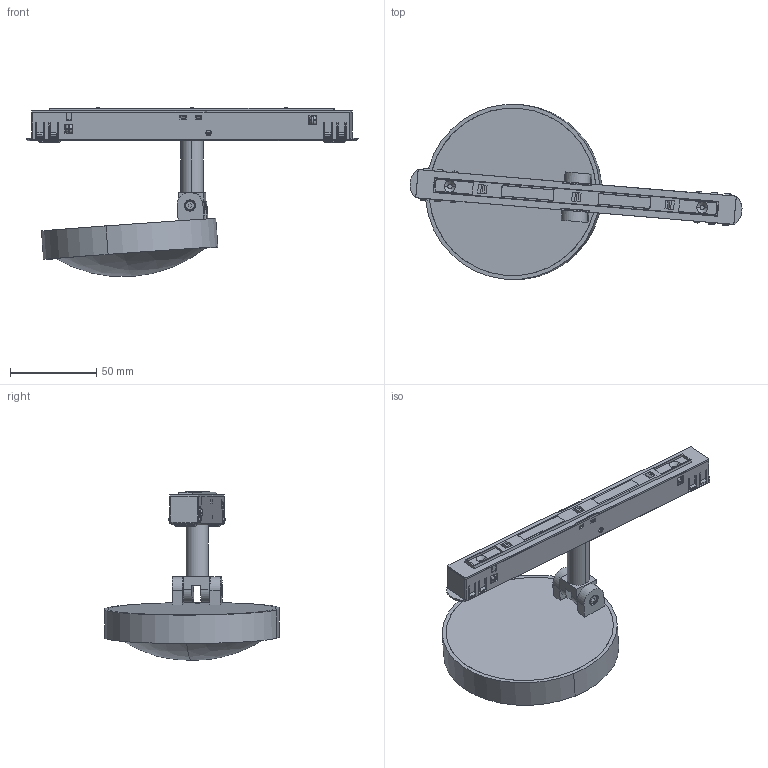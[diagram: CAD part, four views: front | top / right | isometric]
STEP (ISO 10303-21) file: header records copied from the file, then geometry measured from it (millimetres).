
FILE_DESCRIPTION (( 'STEP AP203' ), '1' );
FILE_NAME ('410232.STEP', '2025-04-02T03:22:01', ( '微软用户' ), ( '微软中国' ), 'SwSTEP 2.0', 'SolidWorks 2020', '' );
FILE_SCHEMA (( 'CONFIG_CONTROL_DESIGN' ));
Length unit declared in the file: millimetre
Products named in the file (22): M3埴翐芛蹟佪_1; MANIFOLD_SOLID_BREP_1147; 10-07-WJ1; 95芧芵噩; 嫖埭盓殤_1; 嫖埭_1; 10-08-G1_1; 腑极1; 魂雄裝1_1; MANIFOLD_SOLID_BREP_1155; MANIFOLD_SOLID_BREP_1149; MANIFOLD_SOLID_BREP_1150; 殑嫖啣1; 410232; MANIFOLD_SOLID_BREP_1146; MANIFOLD_SOLID_BREP_1156; 裔啣1; 蝶菜_1; 10-10-gk-2; MANIFOLD_SOLID_BREP_1148; MANIFOLD_SOLID_BREP_1145; 盓殤_1
Assembly tree (26 placements, depth 3):
  410232
    魂雄裝1_1
    蝶菜_1  x2
    裔啣1
    嫖埭盓殤_1
    嫖埭_1
    盓殤_1  x2
    殑嫖啣1
    M3埴翐芛蹟佪_1  x4
    腑极1
    95芧芵噩
    10-10-gk-2
      MANIFOLD_SOLID_BREP_1145
      MANIFOLD_SOLID_BREP_1146
      MANIFOLD_SOLID_BREP_1147
      MANIFOLD_SOLID_BREP_1148
      MANIFOLD_SOLID_BREP_1149
      MANIFOLD_SOLID_BREP_1150
      MANIFOLD_SOLID_BREP_1155
      MANIFOLD_SOLID_BREP_1156
      10-07-WJ1
      10-08-G1_1
Bounding box: 192.17 x 101.22 x 97.79 mm (x, y, z)
Volume: 173577.2 mm3; surface area: 106686.6 mm2
Topology: 29 solids, 29 shells, 1858 faces, 5021 edges, 3291 vertices
Faces by surface type: plane 1210, cylinder 340, bspline 203, cone 103, torus 2
Entity records: 72079 total; most frequent: CARTESIAN_POINT 26507, ORIENTED_EDGE 9734, DIRECTION 7585, EDGE_CURVE 4867, LINE 3229, VECTOR 3229, VERTEX_POINT 3196, AXIS2_PLACEMENT_3D 2178
